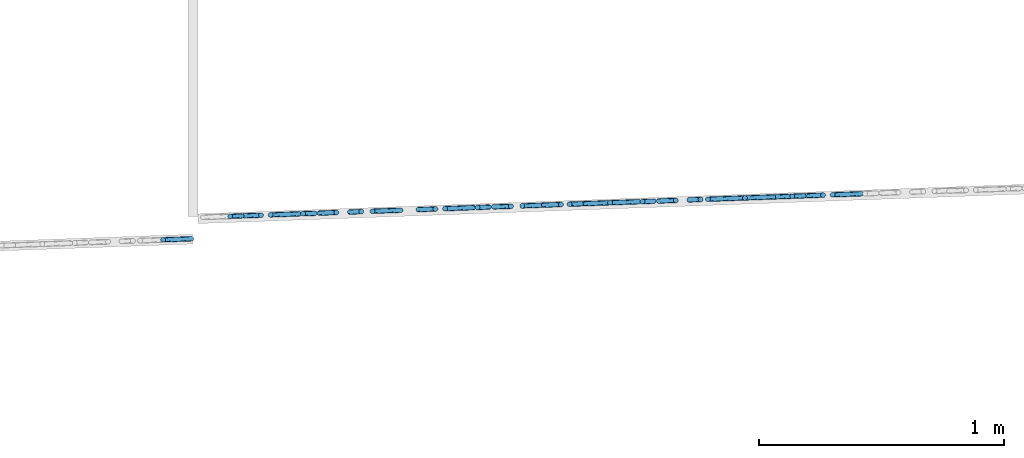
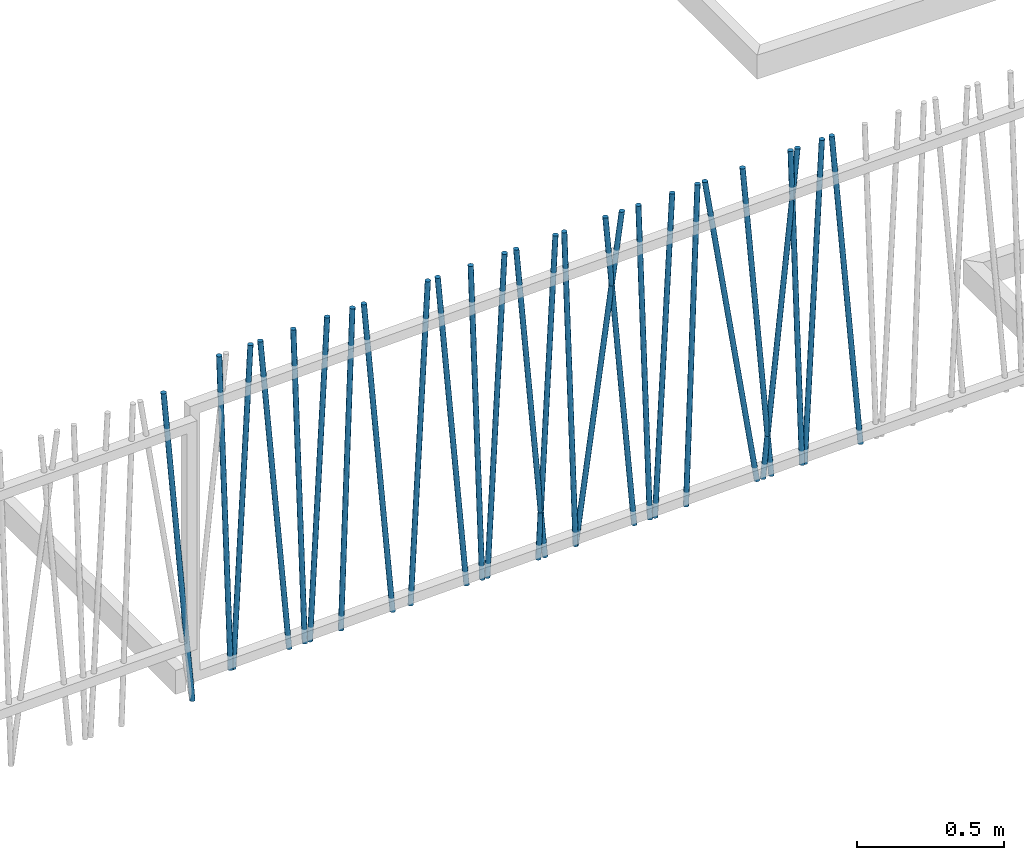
# One storey, part 9 of 171: 26 columns.
"""IFC2X3 building model written with IfcOpenShell, lengths in millimetres."""

from ifc_helpers import new_model, entity, si_unit, converted_unit, derived_unit, money_unit, direction, frame, origin_with_axes, origin_2d_with_axis, place, context, subcontext, project, spatial, circle, extrude, clip, halfspace, material, type_object, element, save


model = new_model("IFC2X3")

# Units and contexts
model_context = context("Model", 3, precision=0.01, world=origin_with_axes(), true_north=direction((0.0, 1.0)))
body_context = subcontext(model_context, "Body", "Model", "MODEL_VIEW")
ifc_project = project(units=[si_unit("LENGTHUNIT", "METRE", prefix="MILLI"), si_unit("AREAUNIT", "SQUARE_METRE"), si_unit("VOLUMEUNIT", "CUBIC_METRE"), converted_unit("PLANEANGLEUNIT", "DEGREE", entity("IfcPlaneAngleMeasure", 0.0174532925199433), si_unit("PLANEANGLEUNIT", "RADIAN"), dimensions=[0, 0, 0, 0, 0, 0, 0]), money_unit("USD"), converted_unit("TIMEUNIT", "Year", entity("IfcTimeMeasure", 31557600.0), si_unit("TIMEUNIT", "SECOND"), dimensions=[0, 0, 1, 0, 0, 0, 0]), si_unit("MASSUNIT", "GRAM", prefix="KILO"), si_unit("THERMODYNAMICTEMPERATUREUNIT", "DEGREE_CELSIUS"), si_unit("LUMINOUSINTENSITYUNIT", "LUMEN"), si_unit("ENERGYUNIT", "JOULE", prefix="MEGA"), derived_unit("THERMALCONDUCTANCEUNIT", [(si_unit("POWERUNIT", "WATT"), 1), (si_unit("LENGTHUNIT", "METRE"), -1), (si_unit("THERMODYNAMICTEMPERATUREUNIT", "KELVIN"), -1)]), derived_unit("SPECIFICHEATCAPACITYUNIT", [(si_unit("ENERGYUNIT", "JOULE"), 1), (si_unit("MASSUNIT", "GRAM", prefix="KILO"), -1), (si_unit("THERMODYNAMICTEMPERATUREUNIT", "KELVIN"), -1)]), derived_unit("MASSDENSITYUNIT", [(si_unit("MASSUNIT", "GRAM", prefix="KILO"), 1), (si_unit("VOLUMEUNIT", "CUBIC_METRE"), -1)])], contexts=[model_context])

# Site, building, storey
site_placement = place(None, origin_with_axes())
site = spatial("IfcSite", under=ifc_project, at=site_placement, Name="Site", CompositionType="ELEMENT")
building_placement = place(site_placement, origin_with_axes())
building = spatial("IfcBuilding", under=site, at=building_placement, Name="Bâtiment", CompositionType="ELEMENT")
storey_placement = place(building_placement, frame((0.0, 0.0, 3000.0), z_axis=(0.0, 0.0, 1.0), x_axis=(1.0, 0.0, 0.0)))
storey = spatial("IfcBuildingStorey", under=building, at=storey_placement, Name="rdc", CompositionType="ELEMENT", Elevation=3000.0)

# Columns
ifc_material = material(Name="Empty Fill 2959611567")
column_type = type_object("IfcColumnType", Name="Empty Fill 2959611567 D20", PredefinedType="NOTDEFINED")
column_1_placement = place(storey_placement, frame((2245003.264136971, -667065.0609896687, -2071.2112281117), z_axis=(0.0, 0.0, 1.0), x_axis=(-0.03567989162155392, 0.9993632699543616, 0.0)))
element("IfcColumn", 1, at=column_1_placement, inside=storey, type_object=column_type, material=ifc_material, Name="Pilier-019", context=body_context, shape_type="Clipping", body=[
    clip(clip(extrude(circle(Radius=10.0, at=origin_2d_with_axis()), frame((0.0, -0.152502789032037, -1.743114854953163), z_axis=(0.0, 0.08715574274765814, 0.9961946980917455), x_axis=(1.0, 0.0, 0.0)), (0.0, 0.0, 1.0), 1329.75758690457), halfspace(frame((0.0, 0.0, 0.0), z_axis=(0.0, 0.0, 1.0), x_axis=(0.0, -1.0, 0.0)), True)), halfspace(frame((0.0, 0.0, 1321.2112281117), z_axis=(0.0, 0.0, -1.0), x_axis=(0.0, 1.0, 0.0)), True)),
])
column_2_placement = place(storey_placement, frame((2245520.362793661, -667046.5992104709, -2071.2112281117), z_axis=(0.0, 0.0, 1.0), x_axis=(0.03567989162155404, -0.9993632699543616, 0.0)))
element("IfcColumn", 2, at=column_2_placement, inside=storey, type_object=column_type, material=ifc_material, Name="Pilier-019", context=body_context, shape_type="Clipping", body=[
    clip(clip(extrude(circle(Radius=10.0, at=origin_2d_with_axis()), frame((0.0, -0.2197276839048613, -2.090569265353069), z_axis=(0.0, -0.1045284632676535, -0.9945218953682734), x_axis=(-1.0, 0.0, 0.0)), (0.0, 0.0, -1.0), 1332.692998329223), halfspace(frame((0.0, 0.0, 0.0), z_axis=(0.0, 0.0, 1.0), x_axis=(0.0, -1.0, 0.0)), True)), halfspace(frame((0.0, 0.0, 1321.2112281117), z_axis=(0.0, 0.0, -1.0), x_axis=(0.0, 1.0, 0.0)), True)),
])
column_3_placement = place(storey_placement, frame((2244768.633487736, -667073.4379196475, -2071.2112281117), z_axis=(0.0, 0.0, 1.0), x_axis=(0.03567989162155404, -0.9993632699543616, 0.0)))
element("IfcColumn", 3, at=column_3_placement, inside=storey, type_object=column_type, material=ifc_material, Name="Pilier-019", context=body_context, shape_type="Clipping", body=[
    clip(clip(extrude(circle(Radius=10.0, at=origin_2d_with_axis()), frame((0.0, -0.3911900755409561, -2.78346201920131), z_axis=(0.0, -0.1391731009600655, -0.9902680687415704), x_axis=(-1.0, 0.0, 0.0)), (0.0, 0.0, -1.0), 1339.817160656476), halfspace(frame((0.0, 0.0, 0.0), z_axis=(0.0, 0.0, 1.0), x_axis=(0.0, -1.0, 0.0)), True)), halfspace(frame((0.0, 0.0, 1321.2112281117), z_axis=(0.0, 0.0, -1.0), x_axis=(0.0, 1.0, 0.0)), True)),
])
for number, where, z_axis, x_axis, name in (
    (4, (2245911.550364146, -667032.6327875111, -2071.2112281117), (0.0, 0.0, 1.0), (-0.03567989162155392, 0.9993632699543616, 0.0), "Pilier-019"),
    (5, (2244033.961047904, -667099.667653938, -2071.2112281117), (0.0, 0.0, 1.0), (-0.03567989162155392, 0.9993632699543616, 0.0), "Pilier-019"),
    (6, (2243179.518060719, -667216.2439546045, -2071.2112281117), (0.0, 0.0, 1.0), (-0.03567989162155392, 0.9993632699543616, 0.0), "Pilier-019"),
):
    element("IfcColumn", number, at=place(storey_placement, frame(where, z_axis=z_axis, x_axis=x_axis)), inside=storey, type_object=column_type, material=ifc_material, Name=name, context=body_context, shape_type="Clipping", body=[
        clip(clip(extrude(circle(Radius=10.0, at=origin_2d_with_axis()), frame((0.0, -0.152502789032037, -1.743114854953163), z_axis=(0.0, 0.08715574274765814, 0.9961946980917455), x_axis=(1.0, 0.0, 0.0)), (0.0, 0.0, 1.0), 1329.75758690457), halfspace(frame((0.0, 0.0, 0.0), z_axis=(0.0, 0.0, 1.0), x_axis=(0.0, -1.0, 0.0)), True)), halfspace(frame((0.0, 0.0, 1321.2112281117), z_axis=(0.0, 0.0, -1.0), x_axis=(0.0, 1.0, 0.0)), True)),
    ])
column_4_placement = place(storey_placement, frame((2245211.384607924, -667057.6305426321, -2071.2112281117), z_axis=(0.0, 0.0, 1.0), x_axis=(0.03567989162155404, -0.9993632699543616, 0.0)))
element("IfcColumn", 7, at=column_4_placement, inside=storey, type_object=column_type, material=ifc_material, Name="Pilier-019", context=body_context, shape_type="Clipping", body=[
    clip(clip(extrude(circle(Radius=10.0, at=origin_2d_with_axis()), frame((0.0, -0.02437434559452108, -0.6979899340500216), z_axis=(0.0, -0.03489949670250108, -0.9993908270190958), x_axis=(-1.0, 0.0, 0.0)), (0.0, 0.0, -1.0), 1323.413395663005), halfspace(frame((0.0, 0.0, 0.0), z_axis=(0.0, 0.0, 1.0), x_axis=(0.0, -1.0, 0.0)), True)), halfspace(frame((0.0, 0.0, 1321.2112281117), z_axis=(0.0, 0.0, -1.0), x_axis=(0.0, 1.0, 0.0)), True)),
])
column_5_placement = place(storey_placement, frame((2245687.595628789, -667040.628559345, -2071.2112281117), z_axis=(0.0, 0.0, 1.0), x_axis=(0.03567989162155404, -0.9993632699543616, 0.0)))
element("IfcColumn", 8, at=column_5_placement, inside=storey, type_object=column_type, material=ifc_material, Name="Pilier-019", context=body_context, shape_type="Clipping", body=[
    clip(clip(extrude(circle(Radius=10.0, at=origin_2d_with_axis()), frame((0.0, -0.05485622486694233, -1.046719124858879), z_axis=(0.0, -0.05233595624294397, -0.9986295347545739), x_axis=(-1.0, 0.0, 0.0)), (0.0, 0.0, -1.0), 1325.120698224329), halfspace(frame((0.0, 0.0, 0.0), z_axis=(0.0, 0.0, 1.0), x_axis=(0.0, -1.0, 0.0)), True)), halfspace(frame((0.0, 0.0, 1321.2112281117), z_axis=(0.0, 0.0, -1.0), x_axis=(0.0, 1.0, 0.0)), True)),
])
column_6_placement = place(storey_placement, frame((2244330.257139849, -667089.0891058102, -2071.2112281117), z_axis=(0.0, 0.0, 1.0), x_axis=(-0.03567989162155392, 0.9993632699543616, 0.0)))
element("IfcColumn", 9, at=column_6_placement, inside=storey, type_object=column_type, material=ifc_material, Name="Pilier-019", context=body_context, shape_type="Clipping", body=[
    clip(clip(extrude(circle(Radius=10.0, at=origin_2d_with_axis()), frame((0.0, -0.152502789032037, -1.743114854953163), z_axis=(0.0, 0.08715574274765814, 0.9961946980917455), x_axis=(1.0, 0.0, 0.0)), (0.0, 0.0, 1.0), 1329.75758690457), halfspace(frame((0.0, 0.0, 0.0), z_axis=(0.0, 0.0, 1.0), x_axis=(0.0, -1.0, 0.0)), True)), halfspace(frame((0.0, 0.0, 1321.2112281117), z_axis=(0.0, 0.0, -1.0), x_axis=(0.0, 1.0, 0.0)), True)),
])
column_7_placement = place(storey_placement, frame((2245677.053169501, -667041.0049528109, -2071.2112281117), z_axis=(0.0, 0.0, 1.0), x_axis=(-0.03567989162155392, 0.9993632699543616, 0.0)))
element("IfcColumn", 10, at=column_7_placement, inside=storey, type_object=column_type, material=ifc_material, Name="Pilier-019", context=body_context, shape_type="Clipping", body=[
    clip(clip(extrude(circle(Radius=10.0, at=origin_2d_with_axis()), frame((0.0, -0.02437434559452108, -0.6979899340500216), z_axis=(0.0, 0.03489949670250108, 0.9993908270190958), x_axis=(1.0, 0.0, 0.0)), (0.0, 0.0, 1.0), 1323.413395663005), halfspace(frame((0.0, 0.0, 0.0), z_axis=(0.0, 0.0, 1.0), x_axis=(0.0, -1.0, 0.0)), True)), halfspace(frame((0.0, 0.0, 1321.2112281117), z_axis=(0.0, 0.0, -1.0), x_axis=(0.0, 1.0, 0.0)), True)),
])
column_8_placement = place(storey_placement, frame((2244106.302404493, -667097.084877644, -2071.2112281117), z_axis=(0.0, 0.0, 1.0), x_axis=(0.03567989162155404, -0.9993632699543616, 0.0)))
element("IfcColumn", 11, at=column_8_placement, inside=storey, type_object=column_type, material=ifc_material, Name="Pilier-019", context=body_context, shape_type="Clipping", body=[
    clip(clip(extrude(circle(Radius=10.0, at=origin_2d_with_axis()), frame((0.0, -0.05485622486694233, -1.046719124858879), z_axis=(0.0, -0.05233595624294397, -0.9986295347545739), x_axis=(-1.0, 0.0, 0.0)), (0.0, 0.0, -1.0), 1325.120698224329), halfspace(frame((0.0, 0.0, 0.0), z_axis=(0.0, 0.0, 1.0), x_axis=(0.0, -1.0, 0.0)), True)), halfspace(frame((0.0, 0.0, 1321.2112281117), z_axis=(0.0, 0.0, -1.0), x_axis=(0.0, 1.0, 0.0)), True)),
])
column_9_placement = place(storey_placement, frame((2243618.543341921, -667114.4991563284, -2071.2112281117), z_axis=(0.0, 0.0, 1.0), x_axis=(-0.03567989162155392, 0.9993632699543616, 0.0)))
element("IfcColumn", 12, at=column_9_placement, inside=storey, type_object=column_type, material=ifc_material, Name="Pilier-019", context=body_context, shape_type="Clipping", body=[
    clip(clip(extrude(circle(Radius=10.0, at=origin_2d_with_axis()), frame((0.0, -0.152502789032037, -1.743114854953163), z_axis=(0.0, 0.08715574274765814, 0.9961946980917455), x_axis=(1.0, 0.0, 0.0)), (0.0, 0.0, 1.0), 1329.75758690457), halfspace(frame((0.0, 0.0, 0.0), z_axis=(0.0, 0.0, 1.0), x_axis=(0.0, -1.0, 0.0)), True)), halfspace(frame((0.0, 0.0, 1321.2112281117), z_axis=(0.0, 0.0, -1.0), x_axis=(0.0, 1.0, 0.0)), True)),
])
column_10_placement = place(storey_placement, frame((2245066.316492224, -667062.8098551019, -2071.2112281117), z_axis=(0.0, 0.0, 1.0), x_axis=(-0.03567989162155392, 0.9993632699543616, 0.0)))
element("IfcColumn", 13, at=column_10_placement, inside=storey, type_object=column_type, material=ifc_material, Name="Pilier-019", context=body_context, shape_type="Clipping", body=[
    clip(clip(extrude(circle(Radius=10.0, at=origin_2d_with_axis()), frame((0.0, -0.02437434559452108, -0.6979899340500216), z_axis=(0.0, 0.03489949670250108, 0.9993908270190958), x_axis=(1.0, 0.0, 0.0)), (0.0, 0.0, 1.0), 1323.413395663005), halfspace(frame((0.0, 0.0, 0.0), z_axis=(0.0, 0.0, 1.0), x_axis=(0.0, -1.0, 0.0)), True)), halfspace(frame((0.0, 0.0, 1321.2112281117), z_axis=(0.0, 0.0, -1.0), x_axis=(0.0, 1.0, 0.0)), True)),
])
column_11_placement = place(storey_placement, frame((2244618.459901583, -667078.7995108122, -2071.2112281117), z_axis=(0.0, 0.0, 1.0), x_axis=(0.03567989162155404, -0.9993632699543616, 0.0)))
element("IfcColumn", 14, at=column_11_placement, inside=storey, type_object=column_type, material=ifc_material, Name="Pilier-019", context=body_context, shape_type="Clipping", body=[
    clip(clip(extrude(circle(Radius=10.0, at=origin_2d_with_axis()), frame((0.0, -0.05485622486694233, -1.046719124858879), z_axis=(0.0, -0.05233595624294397, -0.9986295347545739), x_axis=(-1.0, 0.0, 0.0)), (0.0, 0.0, -1.0), 1325.120698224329), halfspace(frame((0.0, 0.0, 0.0), z_axis=(0.0, 0.0, 1.0), x_axis=(0.0, -1.0, 0.0)), True)), halfspace(frame((0.0, 0.0, 1321.2112281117), z_axis=(0.0, 0.0, -1.0), x_axis=(0.0, 1.0, 0.0)), True)),
])
for number, where, z_axis, x_axis, name in (
    (15, (2244768.766942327, -667073.4331549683, -2071.2112281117), (0.0, 0.0, 1.0), (-0.03567989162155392, 0.9993632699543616, 0.0), "Pilier-019"),
    (16, (2243681.595697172, -667112.2480217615, -2071.2112281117), (0.0, 0.0, 1.0), (-0.03567989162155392, 0.9993632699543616, 0.0), "Pilier-019"),
):
    element("IfcColumn", number, at=place(storey_placement, frame(where, z_axis=z_axis, x_axis=x_axis)), inside=storey, type_object=column_type, material=ifc_material, Name=name, context=body_context, shape_type="Clipping", body=[
        clip(clip(extrude(circle(Radius=10.0, at=origin_2d_with_axis()), frame((0.0, -0.02437434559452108, -0.6979899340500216), z_axis=(0.0, 0.03489949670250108, 0.9993908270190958), x_axis=(1.0, 0.0, 0.0)), (0.0, 0.0, 1.0), 1323.413395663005), halfspace(frame((0.0, 0.0, 0.0), z_axis=(0.0, 0.0, 1.0), x_axis=(0.0, -1.0, 0.0)), True)), halfspace(frame((0.0, 0.0, 1321.2112281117), z_axis=(0.0, 0.0, -1.0), x_axis=(0.0, 1.0, 0.0)), True)),
    ])
column_12_placement = place(storey_placement, frame((2243826.663812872, -667107.0687092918, -2071.2112281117), z_axis=(0.0, 0.0, 1.0), x_axis=(0.03567989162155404, -0.9993632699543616, 0.0)))
element("IfcColumn", 17, at=column_12_placement, inside=storey, type_object=column_type, material=ifc_material, Name="Pilier-019", context=body_context, shape_type="Clipping", body=[
    clip(clip(extrude(circle(Radius=10.0, at=origin_2d_with_axis()), frame((0.0, -0.02437434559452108, -0.6979899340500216), z_axis=(0.0, -0.03489949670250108, -0.9993908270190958), x_axis=(-1.0, 0.0, 0.0)), (0.0, 0.0, -1.0), 1323.413395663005), halfspace(frame((0.0, 0.0, 0.0), z_axis=(0.0, 0.0, 1.0), x_axis=(0.0, -1.0, 0.0)), True)), halfspace(frame((0.0, 0.0, 1321.2112281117), z_axis=(0.0, 0.0, -1.0), x_axis=(0.0, 1.0, 0.0)), True)),
])
column_13_placement = place(storey_placement, frame((2245087.01126017, -667062.0709975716, -2071.2112281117), z_axis=(0.0, 0.0, 1.0), x_axis=(0.03567989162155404, -0.9993632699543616, 0.0)))
element("IfcColumn", 18, at=column_13_placement, inside=storey, type_object=column_type, material=ifc_material, Name="Pilier-019", context=body_context, shape_type="Clipping", body=[
    clip(clip(extrude(circle(Radius=10.0, at=origin_2d_with_axis()), frame((0.0, -0.05485622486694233, -1.046719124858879), z_axis=(0.0, -0.05233595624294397, -0.9986295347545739), x_axis=(-1.0, 0.0, 0.0)), (0.0, 0.0, -1.0), 1325.120698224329), halfspace(frame((0.0, 0.0, 0.0), z_axis=(0.0, 0.0, 1.0), x_axis=(0.0, -1.0, 0.0)), True)), halfspace(frame((0.0, 0.0, 1321.2112281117), z_axis=(0.0, 0.0, -1.0), x_axis=(0.0, 1.0, 0.0)), True)),
])
column_14_placement = place(storey_placement, frame((2245553.590685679, -667045.4128875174, -2071.2112281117), z_axis=(0.0, 0.0, 1.0), x_axis=(-0.03567989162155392, 0.9993632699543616, 0.0)))
element("IfcColumn", 19, at=column_14_placement, inside=storey, type_object=column_type, material=ifc_material, Name="Pilier-019", context=body_context, shape_type="Clipping", body=[
    clip(clip(extrude(circle(Radius=10.0, at=origin_2d_with_axis()), frame((0.0, -0.152502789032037, -1.743114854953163), z_axis=(0.0, 0.08715574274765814, 0.9961946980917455), x_axis=(1.0, 0.0, 0.0)), (0.0, 0.0, 1.0), 1329.75758690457), halfspace(frame((0.0, 0.0, 0.0), z_axis=(0.0, 0.0, 1.0), x_axis=(0.0, -1.0, 0.0)), True)), halfspace(frame((0.0, 0.0, 1321.2112281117), z_axis=(0.0, 0.0, -1.0), x_axis=(0.0, 1.0, 0.0)), True)),
])
column_15_placement = place(storey_placement, frame((2245495.972256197, -667047.4700166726, -2071.2112281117), z_axis=(0.0, 0.0, 1.0), x_axis=(-0.03567989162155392, 0.9993632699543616, 0.0)))
element("IfcColumn", 20, at=column_15_placement, inside=storey, type_object=column_type, material=ifc_material, Name="Pilier-019", context=body_context, shape_type="Clipping", body=[
    clip(clip(extrude(circle(Radius=10.0, at=origin_2d_with_axis()), frame((0.0, -0.4955357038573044, -3.128689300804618), z_axis=(0.0, 0.1564344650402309, 0.9876883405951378), x_axis=(1.0, 0.0, 0.0)), (0.0, 0.0, 1.0), 1344.015669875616), halfspace(frame((0.0, 0.0, 0.0), z_axis=(0.0, 0.0, 1.0), x_axis=(0.0, -1.0, 0.0)), True)), halfspace(frame((0.0, 0.0, 1321.2112281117), z_axis=(0.0, 0.0, -1.0), x_axis=(0.0, 1.0, 0.0)), True)),
])
column_16_placement = place(storey_placement, frame((2243702.290465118, -667111.5091642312, -2071.2112281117), z_axis=(0.0, 0.0, 1.0), x_axis=(0.03567989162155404, -0.9993632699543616, 0.0)))
element("IfcColumn", 21, at=column_16_placement, inside=storey, type_object=column_type, material=ifc_material, Name="Pilier-019", context=body_context, shape_type="Clipping", body=[
    clip(clip(extrude(circle(Radius=10.0, at=origin_2d_with_axis()), frame((0.0, -0.05485622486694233, -1.046719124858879), z_axis=(0.0, -0.05233595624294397, -0.9986295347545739), x_axis=(-1.0, 0.0, 0.0)), (0.0, 0.0, -1.0), 1325.120698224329), halfspace(frame((0.0, 0.0, 0.0), z_axis=(0.0, 0.0, 1.0), x_axis=(0.0, -1.0, 0.0)), True)), halfspace(frame((0.0, 0.0, 1321.2112281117), z_axis=(0.0, 0.0, -1.0), x_axis=(0.0, 1.0, 0.0)), True)),
])
column_17_placement = place(storey_placement, frame((2244393.309495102, -667086.8379712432, -2071.2112281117), z_axis=(0.0, 0.0, 1.0), x_axis=(-0.03567989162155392, 0.9993632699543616, 0.0)))
element("IfcColumn", 22, at=column_17_placement, inside=storey, type_object=column_type, material=ifc_material, Name="Pilier-019", context=body_context, shape_type="Clipping", body=[
    clip(clip(extrude(circle(Radius=10.0, at=origin_2d_with_axis()), frame((0.0, -0.02437434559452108, -0.6979899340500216), z_axis=(0.0, 0.03489949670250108, 0.9993908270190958), x_axis=(1.0, 0.0, 0.0)), (0.0, 0.0, 1.0), 1323.413395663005), halfspace(frame((0.0, 0.0, 0.0), z_axis=(0.0, 0.0, 1.0), x_axis=(0.0, -1.0, 0.0)), True)), halfspace(frame((0.0, 0.0, 1321.2112281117), z_axis=(0.0, 0.0, -1.0), x_axis=(0.0, 1.0, 0.0)), True)),
])
column_18_placement = place(storey_placement, frame((2244645.304458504, -667077.841089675, -2071.2112281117), z_axis=(0.0, 0.0, 1.0), x_axis=(-0.03567989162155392, 0.9993632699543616, 0.0)))
element("IfcColumn", 23, at=column_18_placement, inside=storey, type_object=column_type, material=ifc_material, Name="Pilier-019", context=body_context, shape_type="Clipping", body=[
    clip(clip(extrude(circle(Radius=10.0, at=origin_2d_with_axis()), frame((0.0, -0.152502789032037, -1.743114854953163), z_axis=(0.0, 0.08715574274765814, 0.9961946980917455), x_axis=(1.0, 0.0, 0.0)), (0.0, 0.0, 1.0), 1329.75758690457), halfspace(frame((0.0, 0.0, 0.0), z_axis=(0.0, 0.0, 1.0), x_axis=(0.0, -1.0, 0.0)), True)), halfspace(frame((0.0, 0.0, 1321.2112281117), z_axis=(0.0, 0.0, -1.0), x_axis=(0.0, 1.0, 0.0)), True)),
])
column_19_placement = place(storey_placement, frame((2244414.004263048, -667086.099113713, -2071.2112281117), z_axis=(0.0, 0.0, 1.0), x_axis=(0.03567989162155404, -0.9993632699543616, 0.0)))
element("IfcColumn", 24, at=column_19_placement, inside=storey, type_object=column_type, material=ifc_material, Name="Pilier-019", context=body_context, shape_type="Clipping", body=[
    clip(clip(extrude(circle(Radius=10.0, at=origin_2d_with_axis()), frame((0.0, -0.05485622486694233, -1.046719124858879), z_axis=(0.0, -0.05233595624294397, -0.9986295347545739), x_axis=(-1.0, 0.0, 0.0)), (0.0, 0.0, -1.0), 1325.120698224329), halfspace(frame((0.0, 0.0, 0.0), z_axis=(0.0, 0.0, 1.0), x_axis=(0.0, -1.0, 0.0)), True)), halfspace(frame((0.0, 0.0, 1321.2112281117), z_axis=(0.0, 0.0, -1.0), x_axis=(0.0, 1.0, 0.0)), True)),
])
column_20_placement = place(storey_placement, frame((2243384.046147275, -667122.8713216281, -2071.2112281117), z_axis=(0.0, 0.0, 1.0), x_axis=(-0.03567989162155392, 0.9993632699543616, 0.0)))
element("IfcColumn", 25, at=column_20_placement, inside=storey, type_object=column_type, material=ifc_material, Name="Pilier-019", context=body_context, shape_type="Clipping", body=[
    clip(clip(extrude(circle(Radius=10.0, at=origin_2d_with_axis()), frame((0.0, -0.02437434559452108, -0.6979899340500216), z_axis=(0.0, 0.03489949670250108, 0.9993908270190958), x_axis=(1.0, 0.0, 0.0)), (0.0, 0.0, 1.0), 1323.413395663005), halfspace(frame((0.0, 0.0, 0.0), z_axis=(0.0, 0.0, 1.0), x_axis=(0.0, -1.0, 0.0)), True)), halfspace(frame((0.0, 0.0, 1321.2112281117), z_axis=(0.0, 0.0, -1.0), x_axis=(0.0, 1.0, 0.0)), True)),
])
column_21_placement = place(storey_placement, frame((2243394.588606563, -667122.4949281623, -2071.2112281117), z_axis=(0.0, 0.0, 1.0), x_axis=(0.03567989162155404, -0.9993632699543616, 0.0)))
element("IfcColumn", 26, at=column_21_placement, inside=storey, type_object=column_type, material=ifc_material, Name="Pilier-019", context=body_context, shape_type="Clipping", body=[
    clip(clip(extrude(circle(Radius=10.0, at=origin_2d_with_axis()), frame((0.0, -0.05485622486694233, -1.046719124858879), z_axis=(0.0, -0.05233595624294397, -0.9986295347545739), x_axis=(-1.0, 0.0, 0.0)), (0.0, 0.0, -1.0), 1325.120698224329), halfspace(frame((0.0, 0.0, 0.0), z_axis=(0.0, 0.0, 1.0), x_axis=(0.0, -1.0, 0.0)), True)), halfspace(frame((0.0, 0.0, 1321.2112281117), z_axis=(0.0, 0.0, -1.0), x_axis=(0.0, 1.0, 0.0)), True)),
])

save(model, "model.ifc")
